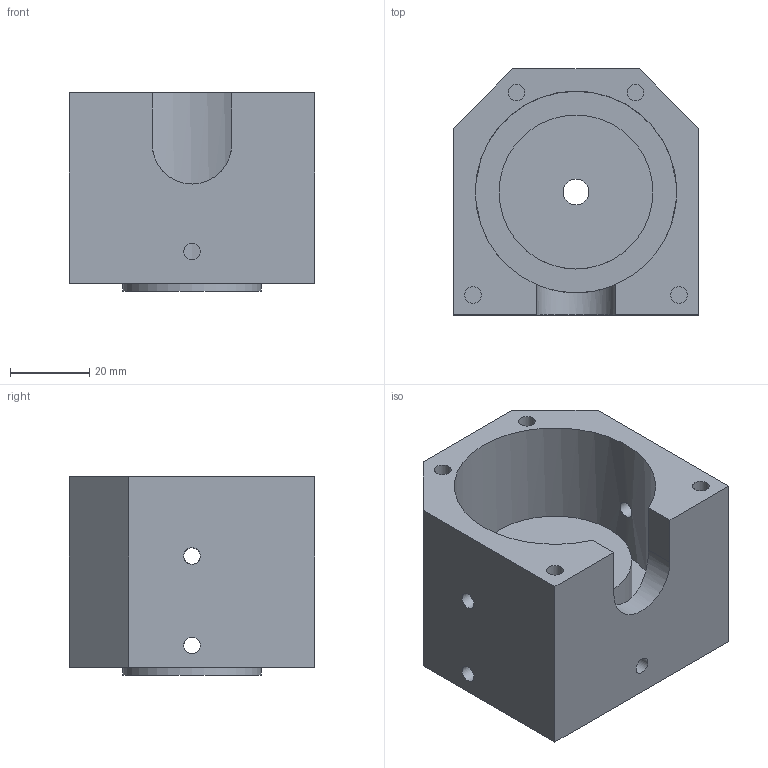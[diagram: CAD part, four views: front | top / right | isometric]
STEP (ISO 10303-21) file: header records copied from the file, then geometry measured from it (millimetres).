
FILE_DESCRIPTION(/* description */ (''),/* implementation_level */ '2;1');
FILE_NAME(/* name */ 'C:/Users/David Florian/Desktop/Cyber-Scooter-Step-Files/3-Compression-Clamp.step',/* time_stamp */ '2020-12-14T22:09:34-06:00',/* author */ (''),/* organization */ (''),/* preprocessor_version */ 'ST-DEVELOPER v18.1',/* originating_system */ 'Autodesk Translation Framework v9.7.1.1290',/* authorisation */ '');
FILE_SCHEMA (('AUTOMOTIVE_DESIGN { 1 0 10303 214 3 1 1 }'));
Length unit declared in the file: millimetre
Products named in the file (1): Compression Clamp-updated-shrink
Bounding box: 62 x 62 x 50 mm (x, y, z)
Volume: 99947.6 mm3; surface area: 28337 mm2
Topology: 1 solids, 1 shells, 33 faces, 80 edges, 54 vertices
Faces by surface type: plane 18, cylinder 15
Full cylindrical faces by diameter (mm): 4.2 x9, 6.5 x1, 28.575 x1, 34.83 x1, 38.8 x1, 50.8 x1
Entity records: 1196 total; most frequent: CARTESIAN_POINT 356, DIRECTION 161, ORIENTED_EDGE 160, EDGE_CURVE 80, AXIS2_PLACEMENT_3D 59, VERTEX_POINT 54, EDGE_LOOP 50, LINE 43
